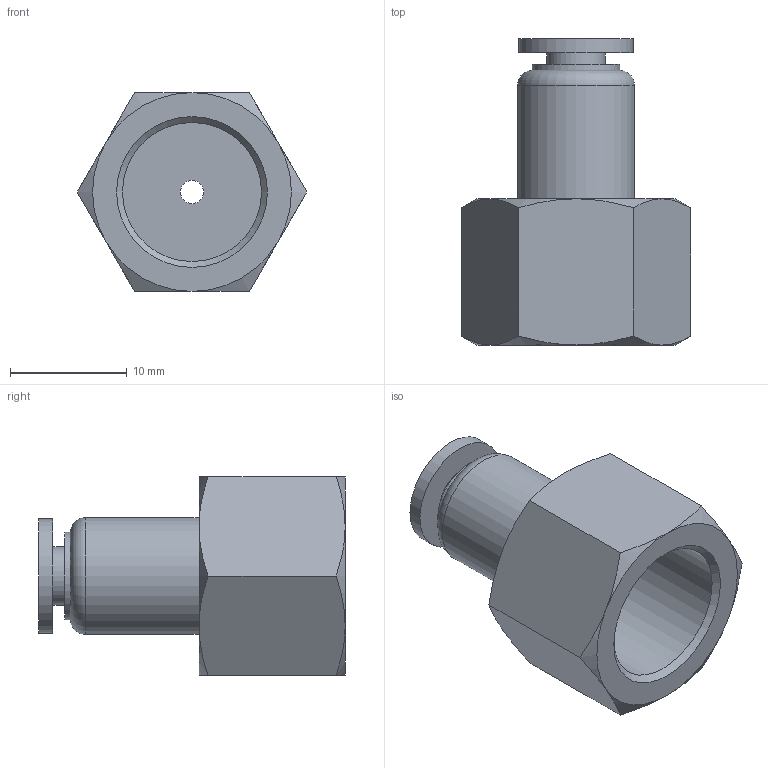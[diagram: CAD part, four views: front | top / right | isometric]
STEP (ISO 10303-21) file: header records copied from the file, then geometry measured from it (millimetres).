
FILE_DESCRIPTION(/* description */ (''),/* implementation_level */ '2;1');
FILE_NAME(/* name */ 'S:\_Tecnico\ArchivioUT\_Disegni3D ingombri\DISEGNI 3D per ingombri\RP\RP 52\RP521404.stp',/* time_stamp */ '2019-07-26T09:28:08+02:00',/* author */ ('ufficiotecnico3'),/* organization */ (''),/* preprocessor_version */ 'ST-DEVELOPER v18',/* originating_system */ 'Autodesk Inventor 2020',/* authorisation */ '');
FILE_SCHEMA (('AUTOMOTIVE_DESIGN { 1 0 10303 214 3 1 1 }'));
Length unit declared in the file: millimetre
Products named in the file (1): RP521404
Bounding box: 19.63 x 26.2 x 17 mm (x, y, z)
Volume: 2697.2 mm3; surface area: 2292.6 mm2
Topology: 1 solids, 1 shells, 35 faces, 80 edges, 52 vertices
Faces by surface type: cone 14, plane 13, cylinder 7, torus 1
Full cylindrical faces by diameter (mm): 2 x1, 4 x1, 5 x1, 7.5 x1, 9.8 x1, 10 x1, 11.89 x1
Entity records: 1024 total; most frequent: CARTESIAN_POINT 216, DIRECTION 169, ORIENTED_EDGE 160, EDGE_CURVE 80, AXIS2_PLACEMENT_3D 77, VERTEX_POINT 52, EDGE_LOOP 42, CIRCLE 41
